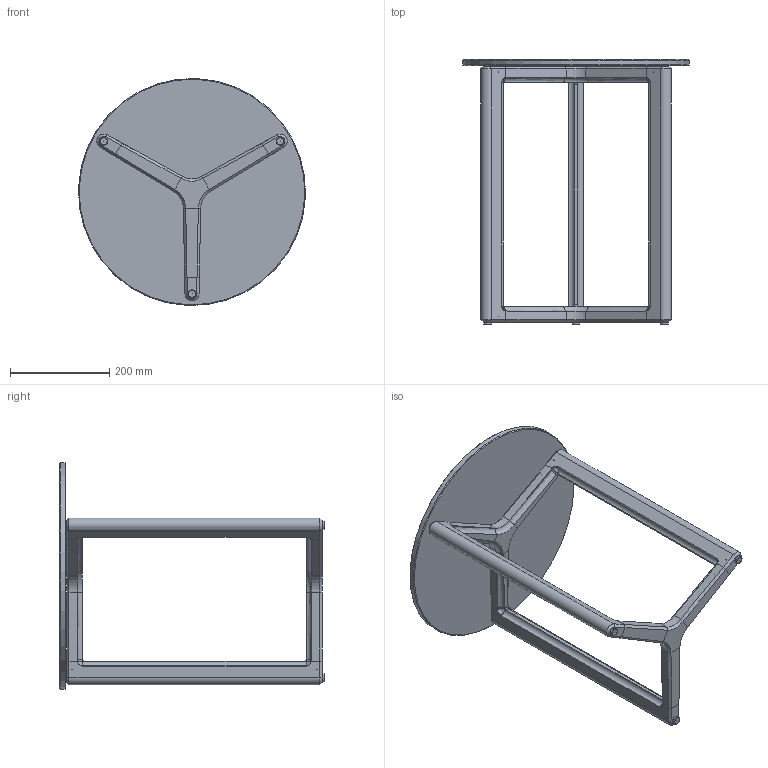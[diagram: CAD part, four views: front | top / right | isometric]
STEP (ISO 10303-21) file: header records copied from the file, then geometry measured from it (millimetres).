
FILE_DESCRIPTION(/* description */ ('SPANNER, SIDE TABLE, 18''''X 22''''H'),/* implementation_level */ '2;1');
FILE_NAME(/* name */ '1150-ROUND-GL.stp',/* time_stamp */ '2024-02-20T13:39:04-05:00',/* author */ ('aunderhill'),/* organization */ (''),/* preprocessor_version */ 'ST-DEVELOPER v19.2',/* originating_system */ 'Autodesk Inventor 2023',/* authorisation */ '');
FILE_SCHEMA (('AUTOMOTIVE_DESIGN { 1 0 10303 214 3 1 1 }'));
Length unit declared in the file: inch
Products named in the file (9): 1150; 1150-001; 1150-002; 1150-003; 1150-004; 97506; FA058; GL1218D; HD01-179
Assembly tree (43 placements, depth 3):
  1150
    1150-001
      1150-002  x2
      1150-003  x6
      1150-004  x3
      97506  x3
      FA058  x24
    GL1218D
    HD01-179  x3
Bounding box: 456.86 x 533.4 x 456.86 mm (x, y, z)
Volume: 4689158.3 mm3; surface area: 753404 mm2
Topology: 42 solids, 42 shells, 447 faces, 846 edges, 534 vertices
Faces by surface type: plane 213, cylinder 109, cone 65, bspline 51, torus 9
Full cylindrical faces by diameter (mm): 1.575 x3, 9.728 x72, 15.875 x3, 457.2 x1
Entity records: 3688 total; most frequent: CARTESIAN_POINT 925, DIRECTION 555, ORIENTED_EDGE 412, AXIS2_PLACEMENT_3D 227, EDGE_CURVE 206, VERTEX_POINT 133, EDGE_LOOP 117, FACE_OUTER_BOUND 102
